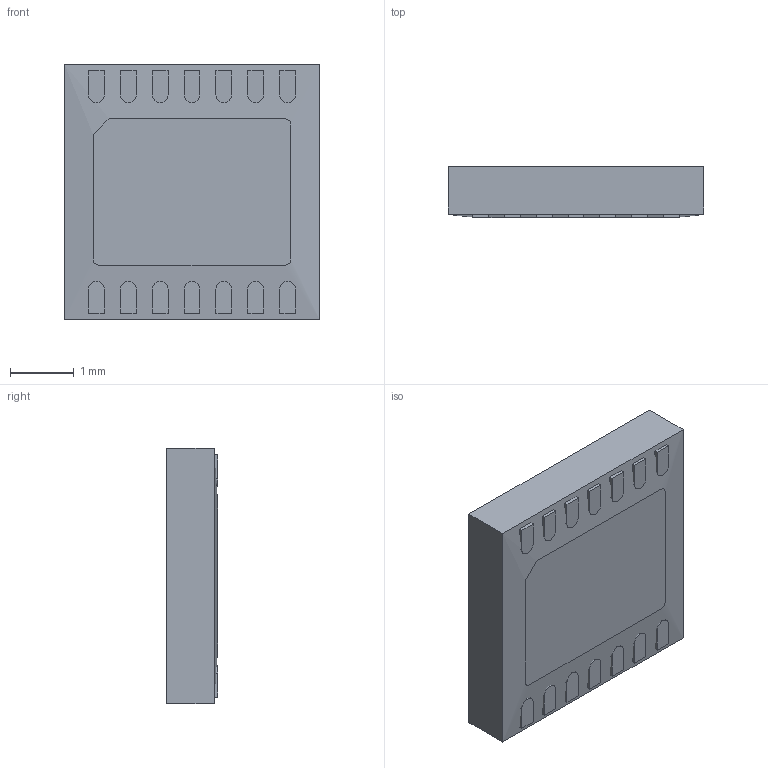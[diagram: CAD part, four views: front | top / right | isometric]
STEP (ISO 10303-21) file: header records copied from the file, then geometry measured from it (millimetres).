
FILE_DESCRIPTION (( 'STEP AP214' ), '1' );
FILE_NAME ( 'PSON50P400X400X80-15T230X310.STEP', '2014-04-11T12:31:21', ( '' ), ( '' ), 'FPX Expert 2013', 'PCB Libraries', '' );
FILE_SCHEMA (( 'AUTOMOTIVE_DESIGN' ));
Length unit declared in the file: millimetre
Products named in the file (1): PSON50P400X400X80-15T230X310
Bounding box: 4 x 0.8 x 4 mm (x, y, z)
Volume: 12.2 mm3; surface area: 66.7 mm2
Topology: 16 solids, 16 shells, 126 faces, 276 edges, 184 vertices
Faces by surface type: plane 90, cylinder 34, torus 2
Entity records: 3971 total; most frequent: DIRECTION 604, CARTESIAN_POINT 587, ORIENTED_EDGE 552, EDGE_CURVE 276, VECTOR 202, LINE 202, AXIS2_PLACEMENT_3D 201, VERTEX_POINT 184
